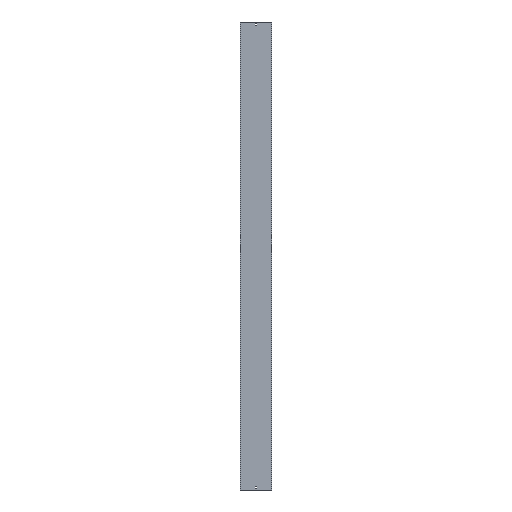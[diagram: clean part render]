
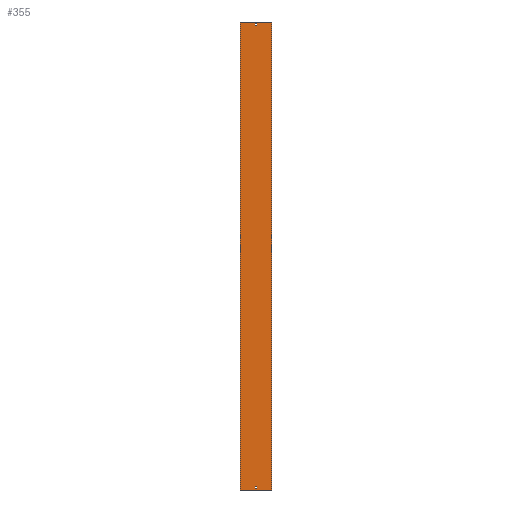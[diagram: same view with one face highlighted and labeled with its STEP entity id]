
A CAD part, front view. The second image highlights one B-rep face of the part: STEP entity #355.
In plain terms, the highlighted planar face has unit normal (0, -1, 0).
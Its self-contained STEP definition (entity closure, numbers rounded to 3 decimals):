
#6 = CARTESIAN_POINT ( 'NONE',  ( -102., 0., 1500. ) ) ;
#9 = VECTOR ( 'NONE', #268, 1000. ) ;
#13 = LINE ( 'NONE', #802, #302 ) ;
#28 = DIRECTION ( 'NONE',  ( 0., 0., -1. ) ) ;
#31 = CARTESIAN_POINT ( 'NONE',  ( -102., 0., 1500. ) ) ;
#33 = CARTESIAN_POINT ( 'NONE',  ( -102., 0., -1500. ) ) ;
#37 = ORIENTED_EDGE ( 'NONE', *, *, #311, .F. ) ;
#38 = DIRECTION ( 'NONE',  ( 0., 0., -1. ) ) ;
#52 = EDGE_CURVE ( 'NONE', #237, #245, #916, .T. ) ;
#53 = ORIENTED_EDGE ( 'NONE', *, *, #732, .T. ) ;
#54 = CARTESIAN_POINT ( 'NONE',  ( 3.25, 0., 1488. ) ) ;
#80 = EDGE_LOOP ( 'NONE', ( #621, #53, #738, #562 ) ) ;
#100 = EDGE_CURVE ( 'NONE', #913, #138, #1008, .T. ) ;
#116 = LINE ( 'NONE', #1079, #580 ) ;
#117 = FACE_BOUND ( 'NONE', #80, .T. ) ;
#138 = VERTEX_POINT ( 'NONE', #861 ) ;
#166 = DIRECTION ( 'NONE',  ( -1., 0., 0. ) ) ;
#172 = VERTEX_POINT ( 'NONE', #326 ) ;
#178 = LINE ( 'NONE', #274, #9 ) ;
#179 = VECTOR ( 'NONE', #557, 1000. ) ;
#206 = EDGE_CURVE ( 'NONE', #838, #980, #13, .T. ) ;
#216 = PLANE ( 'NONE',  #724 ) ;
#221 = FACE_OUTER_BOUND ( 'NONE', #1004, .T. ) ;
#225 = VERTEX_POINT ( 'NONE', #354 ) ;
#237 = VERTEX_POINT ( 'NONE', #6 ) ;
#245 = VERTEX_POINT ( 'NONE', #630 ) ;
#250 = CARTESIAN_POINT ( 'NONE',  ( -3.25, 0., -1488. ) ) ;
#268 = DIRECTION ( 'NONE',  ( -1., 0., 0. ) ) ;
#269 = VECTOR ( 'NONE', #974, 1000. ) ;
#273 = LINE ( 'NONE', #696, #672 ) ;
#274 = CARTESIAN_POINT ( 'NONE',  ( -3.25, 0., 1488. ) ) ;
#283 = DIRECTION ( 'NONE',  ( 0., 0., 1. ) ) ;
#302 = VECTOR ( 'NONE', #692, 1000. ) ;
#311 = EDGE_CURVE ( 'NONE', #920, #225, #178, .T. ) ;
#315 = DIRECTION ( 'NONE',  ( 0., 0., -1. ) ) ;
#320 = VECTOR ( 'NONE', #283, 1000. ) ;
#326 = CARTESIAN_POINT ( 'NONE',  ( 3.25, 0., 1479. ) ) ;
#338 = CARTESIAN_POINT ( 'NONE',  ( -3.25, 0., 1479. ) ) ;
#354 = CARTESIAN_POINT ( 'NONE',  ( -3.25, 0., 1488. ) ) ;
#355 = ADVANCED_FACE ( 'NONE', ( #221, #642, #117 ), #216, .F. ) ;
#369 = LINE ( 'NONE', #997, #1031 ) ;
#378 = VECTOR ( 'NONE', #315, 1000. ) ;
#385 = DIRECTION ( 'NONE',  ( 0., 1., 0. ) ) ;
#388 = ORIENTED_EDGE ( 'NONE', *, *, #635, .T. ) ;
#389 = CARTESIAN_POINT ( 'NONE',  ( -3.25, 0., -1479. ) ) ;
#435 = CARTESIAN_POINT ( 'NONE',  ( -102., 0., 1500. ) ) ;
#439 = ORIENTED_EDGE ( 'NONE', *, *, #456, .F. ) ;
#456 = EDGE_CURVE ( 'NONE', #172, #920, #1063, .T. ) ;
#479 = CARTESIAN_POINT ( 'NONE',  ( -3.25, 0., 1479. ) ) ;
#487 = DIRECTION ( 'NONE',  ( 1., 0., 0. ) ) ;
#539 = ORIENTED_EDGE ( 'NONE', *, *, #725, .F. ) ;
#549 = ORIENTED_EDGE ( 'NONE', *, *, #941, .F. ) ;
#557 = DIRECTION ( 'NONE',  ( 1., 0., 0. ) ) ;
#562 = ORIENTED_EDGE ( 'NONE', *, *, #100, .T. ) ;
#580 = VECTOR ( 'NONE', #38, 1000. ) ;
#582 = LINE ( 'NONE', #479, #638 ) ;
#587 = LINE ( 'NONE', #752, #378 ) ;
#604 = VERTEX_POINT ( 'NONE', #1054 ) ;
#621 = ORIENTED_EDGE ( 'NONE', *, *, #629, .T. ) ;
#624 = LINE ( 'NONE', #435, #269 ) ;
#628 = LINE ( 'NONE', #389, #179 ) ;
#629 = EDGE_CURVE ( 'NONE', #138, #604, #273, .T. ) ;
#630 = CARTESIAN_POINT ( 'NONE',  ( 102., 0., 1500. ) ) ;
#632 = EDGE_LOOP ( 'NONE', ( #792, #549, #37, #439 ) ) ;
#635 = EDGE_CURVE ( 'NONE', #237, #838, #624, .T. ) ;
#638 = VECTOR ( 'NONE', #487, 1000. ) ;
#639 = VERTEX_POINT ( 'NONE', #800 ) ;
#642 = FACE_BOUND ( 'NONE', #632, .T. ) ;
#672 = VECTOR ( 'NONE', #872, 1000. ) ;
#678 = CARTESIAN_POINT ( 'NONE',  ( 3.25, 0., -1488. ) ) ;
#692 = DIRECTION ( 'NONE',  ( 1., 0., 0. ) ) ;
#696 = CARTESIAN_POINT ( 'NONE',  ( -3.25, 0., -1488. ) ) ;
#705 = VECTOR ( 'NONE', #166, 1000. ) ;
#724 = AXIS2_PLACEMENT_3D ( 'NONE', #906, #385, #736 ) ;
#725 = EDGE_CURVE ( 'NONE', #245, #980, #369, .T. ) ;
#729 = ORIENTED_EDGE ( 'NONE', *, *, #206, .T. ) ;
#732 = EDGE_CURVE ( 'NONE', #604, #639, #628, .T. ) ;
#736 = DIRECTION ( 'NONE',  ( -1., 0., 0. ) ) ;
#738 = ORIENTED_EDGE ( 'NONE', *, *, #766, .T. ) ;
#752 = CARTESIAN_POINT ( 'NONE',  ( -3.25, 0., 1488. ) ) ;
#766 = EDGE_CURVE ( 'NONE', #639, #913, #116, .T. ) ;
#792 = ORIENTED_EDGE ( 'NONE', *, *, #862, .F. ) ;
#800 = CARTESIAN_POINT ( 'NONE',  ( 3.25, 0., -1479. ) ) ;
#802 = CARTESIAN_POINT ( 'NONE',  ( -102., 0., -1500. ) ) ;
#810 = CARTESIAN_POINT ( 'NONE',  ( 3.25, 0., 1488. ) ) ;
#838 = VERTEX_POINT ( 'NONE', #33 ) ;
#861 = CARTESIAN_POINT ( 'NONE',  ( -3.25, 0., -1488. ) ) ;
#862 = EDGE_CURVE ( 'NONE', #988, #172, #582, .T. ) ;
#872 = DIRECTION ( 'NONE',  ( 0., 0., 1. ) ) ;
#906 = CARTESIAN_POINT ( 'NONE',  ( -102., 0., 1500. ) ) ;
#913 = VERTEX_POINT ( 'NONE', #678 ) ;
#916 = LINE ( 'NONE', #31, #922 ) ;
#920 = VERTEX_POINT ( 'NONE', #54 ) ;
#922 = VECTOR ( 'NONE', #1075, 1000. ) ;
#941 = EDGE_CURVE ( 'NONE', #225, #988, #587, .T. ) ;
#974 = DIRECTION ( 'NONE',  ( 0., 0., -1. ) ) ;
#980 = VERTEX_POINT ( 'NONE', #1001 ) ;
#988 = VERTEX_POINT ( 'NONE', #338 ) ;
#992 = ORIENTED_EDGE ( 'NONE', *, *, #52, .F. ) ;
#997 = CARTESIAN_POINT ( 'NONE',  ( 102., 0., 1500. ) ) ;
#1001 = CARTESIAN_POINT ( 'NONE',  ( 102., 0., -1500. ) ) ;
#1004 = EDGE_LOOP ( 'NONE', ( #729, #539, #992, #388 ) ) ;
#1008 = LINE ( 'NONE', #250, #705 ) ;
#1031 = VECTOR ( 'NONE', #28, 1000. ) ;
#1054 = CARTESIAN_POINT ( 'NONE',  ( -3.25, 0., -1479. ) ) ;
#1063 = LINE ( 'NONE', #810, #320 ) ;
#1075 = DIRECTION ( 'NONE',  ( 1., 0., 0. ) ) ;
#1079 = CARTESIAN_POINT ( 'NONE',  ( 3.25, 0., -1488. ) ) ;
